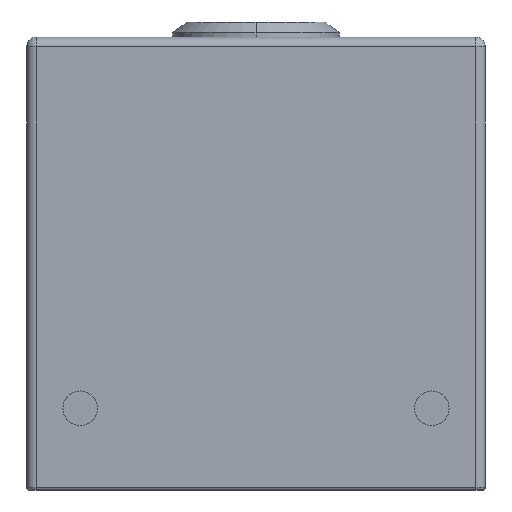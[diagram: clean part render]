
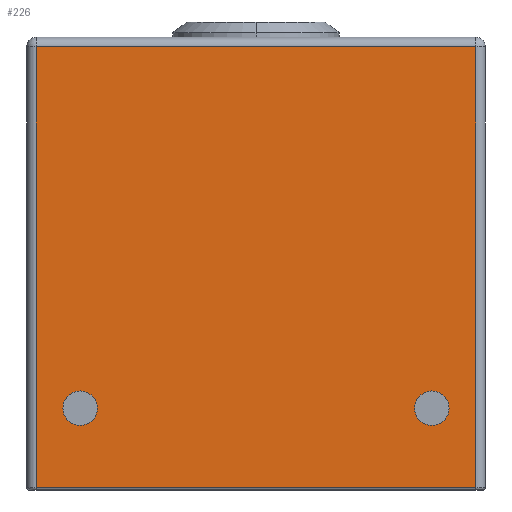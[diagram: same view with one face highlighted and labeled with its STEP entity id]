
A CAD part, front view. The second image highlights one B-rep face of the part: STEP entity #226.
In plain terms, the highlighted planar face has unit normal (0, -1, 0).
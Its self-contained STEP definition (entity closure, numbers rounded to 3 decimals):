
#2 = CARTESIAN_POINT ( 'NONE',  ( -30., -20., 0.3 ) ) ;
#4 = ORIENTED_EDGE ( 'NONE', *, *, #758, .T. ) ;
#6 = DIRECTION ( 'NONE',  ( 0., 1., 0. ) ) ;
#29 = ORIENTED_EDGE ( 'NONE', *, *, #79, .F. ) ;
#46 = EDGE_CURVE ( 'NONE', #538, #471, #267, .T. ) ;
#47 = DIRECTION ( 'NONE',  ( 0., 0., -1. ) ) ;
#79 = EDGE_CURVE ( 'NONE', #471, #538, #941, .T. ) ;
#85 = CIRCLE ( 'NONE', #270, 2.25 ) ;
#119 = ORIENTED_EDGE ( 'NONE', *, *, #803, .T. ) ;
#135 = VERTEX_POINT ( 'NONE', #704 ) ;
#156 = DIRECTION ( 'NONE',  ( 1., 0., 0. ) ) ;
#175 = CARTESIAN_POINT ( 'NONE',  ( -23., -20., 12.95 ) ) ;
#182 = VERTEX_POINT ( 'NONE', #175 ) ;
#200 = DIRECTION ( 'NONE',  ( 0., 1., 0. ) ) ;
#201 = PLANE ( 'NONE',  #311 ) ;
#226 = ADVANCED_FACE ( 'NONE', ( #405, #420, #486 ), #201, .F. ) ;
#237 = DIRECTION ( 'NONE',  ( 0., 0., -1. ) ) ;
#255 = VECTOR ( 'NONE', #370, 1000. ) ;
#267 = CIRCLE ( 'NONE', #880, 2.25 ) ;
#270 = AXIS2_PLACEMENT_3D ( 'NONE', #401, #6, #472 ) ;
#277 = LINE ( 'NONE', #671, #981 ) ;
#288 = DIRECTION ( 'NONE',  ( 0., -1., 0. ) ) ;
#292 = CARTESIAN_POINT ( 'NONE',  ( -28.75, -20., 57.95 ) ) ;
#301 = DIRECTION ( 'NONE',  ( 0., 0., -1. ) ) ;
#311 = AXIS2_PLACEMENT_3D ( 'NONE', #948, #567, #493 ) ;
#313 = CARTESIAN_POINT ( 'NONE',  ( 28.75, -20., 57.95 ) ) ;
#331 = AXIS2_PLACEMENT_3D ( 'NONE', #641, #200, #47 ) ;
#366 = LINE ( 'NONE', #292, #946 ) ;
#370 = DIRECTION ( 'NONE',  ( 0., 0., -1. ) ) ;
#401 = CARTESIAN_POINT ( 'NONE',  ( -23., -20., 10.7 ) ) ;
#405 = FACE_BOUND ( 'NONE', #790, .T. ) ;
#420 = FACE_BOUND ( 'NONE', #911, .T. ) ;
#448 = CARTESIAN_POINT ( 'NONE',  ( 28.75, -20., 0.3 ) ) ;
#456 = VECTOR ( 'NONE', #156, 1000. ) ;
#471 = VERTEX_POINT ( 'NONE', #902 ) ;
#472 = DIRECTION ( 'NONE',  ( 0., 0., -1. ) ) ;
#486 = FACE_OUTER_BOUND ( 'NONE', #734, .T. ) ;
#493 = DIRECTION ( 'NONE',  ( 0., 0., 1. ) ) ;
#507 = AXIS2_PLACEMENT_3D ( 'NONE', #826, #288, #237 ) ;
#519 = EDGE_CURVE ( 'NONE', #649, #182, #85, .T. ) ;
#522 = DIRECTION ( 'NONE',  ( -1., 0., 0. ) ) ;
#527 = LINE ( 'NONE', #596, #255 ) ;
#538 = VERTEX_POINT ( 'NONE', #923 ) ;
#545 = VERTEX_POINT ( 'NONE', #313 ) ;
#564 = VERTEX_POINT ( 'NONE', #691 ) ;
#567 = DIRECTION ( 'NONE',  ( 0., 1., 0. ) ) ;
#591 = EDGE_CURVE ( 'NONE', #564, #754, #935, .T. ) ;
#595 = DIRECTION ( 'NONE',  ( 0., -1., 0. ) ) ;
#596 = CARTESIAN_POINT ( 'NONE',  ( -28.75, -20., 59.2 ) ) ;
#635 = CARTESIAN_POINT ( 'NONE',  ( -23., -20., 8.45 ) ) ;
#641 = CARTESIAN_POINT ( 'NONE',  ( -23., -20., 10.7 ) ) ;
#649 = VERTEX_POINT ( 'NONE', #635 ) ;
#671 = CARTESIAN_POINT ( 'NONE',  ( 28.75, -20., 59.2 ) ) ;
#691 = CARTESIAN_POINT ( 'NONE',  ( -28.75, -20., 0.3 ) ) ;
#698 = ORIENTED_EDGE ( 'NONE', *, *, #733, .T. ) ;
#704 = CARTESIAN_POINT ( 'NONE',  ( -28.75, -20., 57.95 ) ) ;
#733 = EDGE_CURVE ( 'NONE', #182, #649, #822, .T. ) ;
#734 = EDGE_LOOP ( 'NONE', ( #4, #896, #879, #119 ) ) ;
#754 = VERTEX_POINT ( 'NONE', #448 ) ;
#757 = ORIENTED_EDGE ( 'NONE', *, *, #519, .T. ) ;
#758 = EDGE_CURVE ( 'NONE', #135, #564, #527, .T. ) ;
#776 = EDGE_CURVE ( 'NONE', #754, #545, #277, .T. ) ;
#790 = EDGE_LOOP ( 'NONE', ( #757, #698 ) ) ;
#803 = EDGE_CURVE ( 'NONE', #545, #135, #366, .T. ) ;
#822 = CIRCLE ( 'NONE', #331, 2.25 ) ;
#824 = DIRECTION ( 'NONE',  ( 0., 0., 1. ) ) ;
#826 = CARTESIAN_POINT ( 'NONE',  ( 23., -20., 10.7 ) ) ;
#879 = ORIENTED_EDGE ( 'NONE', *, *, #776, .T. ) ;
#880 = AXIS2_PLACEMENT_3D ( 'NONE', #996, #595, #301 ) ;
#896 = ORIENTED_EDGE ( 'NONE', *, *, #591, .T. ) ;
#902 = CARTESIAN_POINT ( 'NONE',  ( 23., -20., 8.45 ) ) ;
#911 = EDGE_LOOP ( 'NONE', ( #29, #986 ) ) ;
#923 = CARTESIAN_POINT ( 'NONE',  ( 23., -20., 12.95 ) ) ;
#935 = LINE ( 'NONE', #2, #456 ) ;
#941 = CIRCLE ( 'NONE', #507, 2.25 ) ;
#946 = VECTOR ( 'NONE', #522, 1000. ) ;
#948 = CARTESIAN_POINT ( 'NONE',  ( -30., -20., 59.2 ) ) ;
#981 = VECTOR ( 'NONE', #824, 1000. ) ;
#986 = ORIENTED_EDGE ( 'NONE', *, *, #46, .F. ) ;
#996 = CARTESIAN_POINT ( 'NONE',  ( 23., -20., 10.7 ) ) ;
